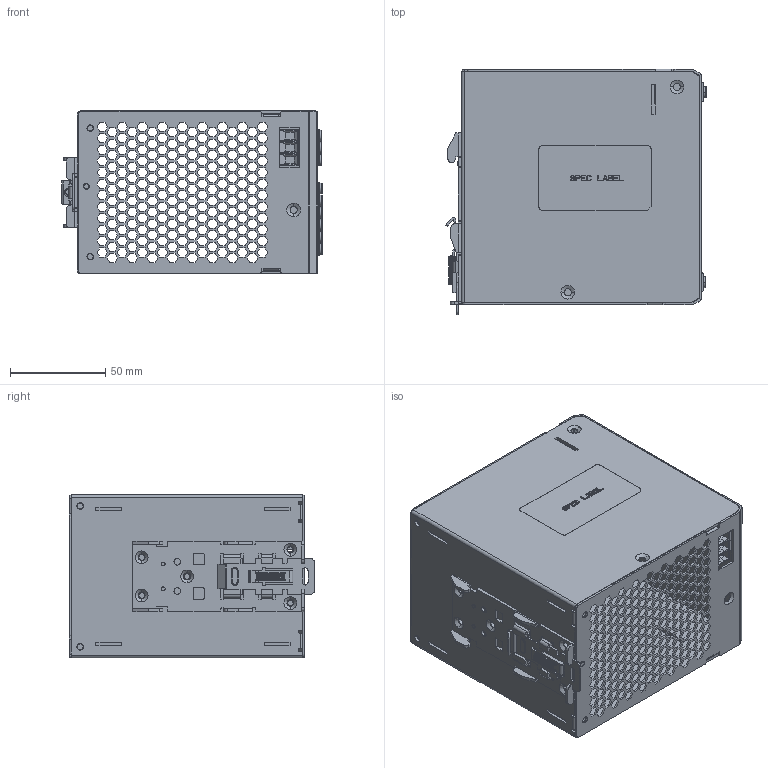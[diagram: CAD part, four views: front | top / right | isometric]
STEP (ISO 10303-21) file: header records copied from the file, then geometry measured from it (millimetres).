
FILE_DESCRIPTION((''),'2;1');
FILE_NAME('480W_ASM_215_ASM','2020-02-04T',('LEON.YEH'),(''),'PRO/ENGINEER BY PARAMETRIC TECHNOLOGY CORPORATION, 2015240','PRO/ENGINEER BY PARAMETRIC TECHNOLOGY CORPORATION, 2015240','');
FILE_SCHEMA(('CONFIG_CONTROL_DESIGN','SHAPE_APPEARANCE_LAYERS_GROUPS'));
Products named in the file (12): CHASSIS_41; PRT0001_2; PRT0002_2; PRT0003_3; ASM0003_ASM_1_ASM; ASM0002_ASM_1_ASM; COVER_105; SPEC_LABEL_1; LED_3; VR_1; T1; 480W_ASM_215_ASM
Assembly tree (13 placements, depth 4):
  480W_ASM_215_ASM
    CHASSIS_41
    ASM0002_ASM_1_ASM
      ASM0003_ASM_1_ASM
        PRT0001_2
        PRT0002_2
        PRT0003_3
    COVER_105
    SPEC_LABEL_1
    LED_3
    VR_1
    T1  x3
Bounding box: 136.74 x 128.8 x 85.95 mm (x, y, z)
Volume: 107204 mm3; surface area: 162026.7 mm2
Topology: 17 solids, 17 shells, 4073 faces, 11634 edges, 7677 vertices
Faces by surface type: plane 3570, cylinder 415, torus 44, cone 22, bspline 22
Entity records: 136727 total; most frequent: CARTESIAN_POINT 25984, ORIENTED_EDGE 21988, DIRECTION 19398, EDGE_CURVE 10994, VECTOR 10106, LINE 10106, VERTEX_POINT 7255, EDGE_LOOP 4801
